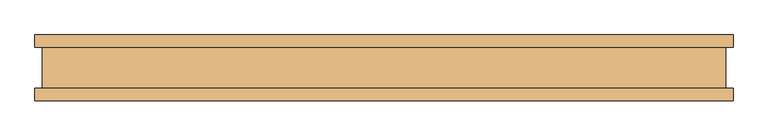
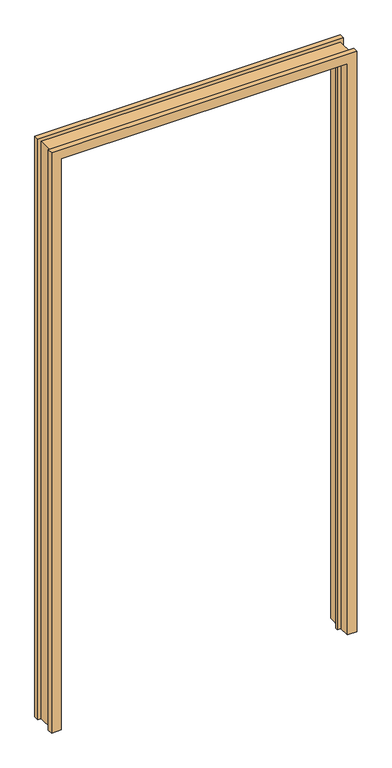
"""IFC4 building model written with IfcOpenShell, lengths in millimetres: door geometry, Frame-Solid_Hinged-AIH-Teknion-FHJA-Jamb_Kit_Single-R2022 : FHJA."""

from ifc_helpers import new_model, si_unit, origin, place, context, project, spatial, faceted_brep, source, transform, mapped, element, save


def door_5b6b8a17(model_context):
    return source(origin(), model_context, "Body", "Brep", [
        faceted_brep([(-531.6982, 31.447233, 0.0), (-531.6982, 49.989233, 0.0), (-498.6782, 49.989233, 0.0), (-498.6782, -2.6789063, 0.0), (-485.7242, -2.6789063, 0.0), (-485.7242, -10.907167, 0.0), (-498.6782, -10.907167, 0.0), (-498.6782, -50.010667, 0.0), (-531.6982, -50.010667, 0.0), (-531.6982, -31.468567, 0.0), (-520.7, -31.468567, 0.0), (-520.7, 31.447233, 0.0), (-531.6982, 31.447233, 2133.5925997), (-531.6982, 49.989233, 2133.5925997), (531.6982, 49.989233, 2133.5925997), (531.6982, 49.989233, 0.0), (498.6782, 49.989233, 0.0), (498.6782, 49.989233, 2100.5725997), (-498.6782, 49.989233, 2100.5725997), (-498.6782, -2.6789063, 2100.5725997), (498.6782, -2.6789063, 2100.5725997), (498.6782, -2.6789063, 0.0), (485.7242, -2.6789063, 0.0), (485.7242, -2.6789063, 2087.6185997), (-485.7242, -2.6789063, 2087.6185997), (-485.7242, -10.907167, 2087.6185997), (485.7242, -10.907167, 2087.6185997), (485.7242, -10.907167, 0.0), (498.6782, -10.907167, 0.0), (498.6782, -10.907167, 2100.5725997), (-498.6782, -10.907167, 2100.5725997), (-498.6782, -50.010667, 2100.5725997), (498.6782, -50.010667, 2100.5725997), (498.6782, -50.010667, 0.0), (531.6982, -50.010667, 0.0), (531.6982, -50.010667, 2133.5925997), (-531.6982, -50.010667, 2133.5925997), (-531.6982, -31.468567, 2133.5925997), (531.6982, -31.468567, 2133.5925997), (531.6982, -31.468567, 0.0), (520.7, -31.468567, 0.0), (520.7, -31.468567, 2122.5943997), (-520.7, -31.468567, 2122.5943997), (-520.7, 31.447233, 2122.5943997), (520.7, 31.447233, 2122.5943997), (520.7, 31.447233, 0.0), (531.6982, 31.447233, 0.0), (531.6982, 31.447233, 2133.5925997)], [[[0, 1, 2, 3, 4, 5, 6, 7, 8, 9, 10, 11]], [[1, 0, 12, 13]], [[2, 1, 13, 14, 15, 16, 17, 18]], [[3, 2, 18, 19]], [[4, 3, 19, 20, 21, 22, 23, 24]], [[5, 4, 24, 25]], [[6, 5, 25, 26, 27, 28, 29, 30]], [[7, 6, 30, 31]], [[8, 7, 31, 32, 33, 34, 35, 36]], [[9, 8, 36, 37]], [[10, 9, 37, 38, 39, 40, 41, 42]], [[11, 10, 42, 43]], [[0, 11, 43, 44, 45, 46, 47, 12]], [[32, 29, 28, 33]], [[46, 45, 40, 39, 34, 33, 28, 27, 22, 21, 16, 15]], [[44, 41, 40, 45]], [[26, 23, 22, 27]], [[20, 17, 16, 21]], [[14, 47, 46, 15]], [[38, 35, 34, 39]], [[31, 30, 29, 32]], [[43, 42, 41, 44]], [[25, 24, 23, 26]], [[19, 18, 17, 20]], [[13, 12, 47, 14]], [[37, 36, 35, 38]]]),
    ])


if __name__ == "__main__":
    model = new_model("IFC4")
    model_context = context("Model", 3, world=origin())
    ifc_project = project(units=[si_unit("LENGTHUNIT", "METRE", prefix="MILLI")], contexts=[model_context])
    site = spatial("IfcSite", under=ifc_project)
    building = spatial("IfcBuilding", under=site)
    placement = place(None, origin())
    door_shape = door_5b6b8a17(model_context)
    element("IfcDoor", 1, ObjectType="Frame-Solid_Hinged-AIH-Teknion-FHJA-Jamb_Kit_Single-R2022 : FHJA", at=placement, inside=building, context=model_context, shape_type="MappedRepresentation", body=[
        mapped(door_shape, transform((0.0, 0.0, 0.0), x_axis=(1.0, 0.0, 0.0), y_axis=(0.0, 1.0, 0.0), z_axis=(0.0, 0.0, 1.0))),
    ])
    save(model, "model.ifc")
